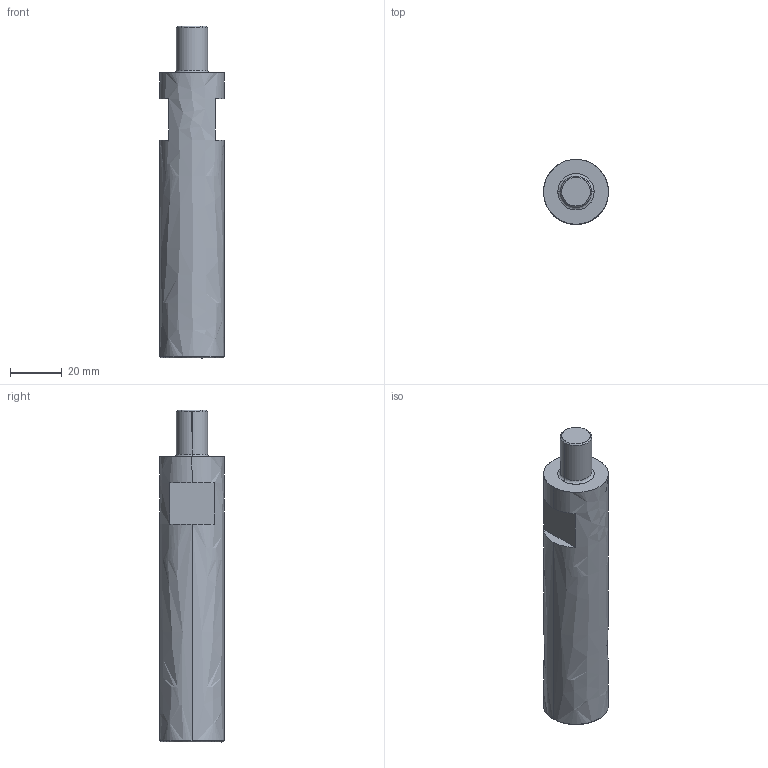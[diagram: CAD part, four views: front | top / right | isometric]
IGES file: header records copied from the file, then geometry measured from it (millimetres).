
Global section: file name: E:\UnigraphicsGraphicData\MISUMI_PRESS-PARTS\IGES\3d_mcup25-110_01360_r00.igs; native system: NX V5.0; preprocessor: UGS NX IGES V5.0; author: MISUMI; date: 20110105.161309; units: millimetre
Bounding box: 25 x 25 x 128 mm (x, y, z)
Surface area: 10362.3 mm2 (no closed solid volume)
Topology: 0 solids, 0 shells, 19 faces, 108 edges, 108 vertices
Faces by surface type: bspline 19
